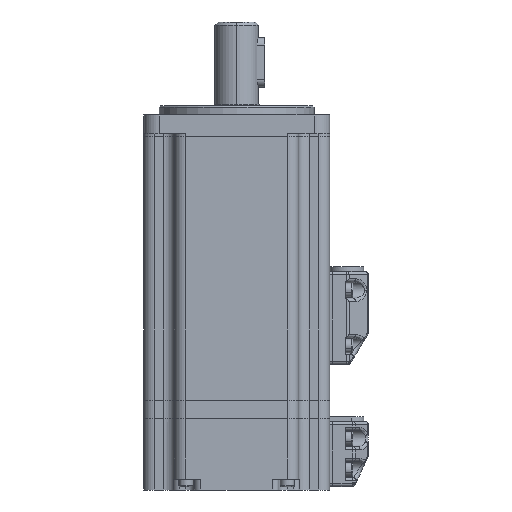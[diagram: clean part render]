
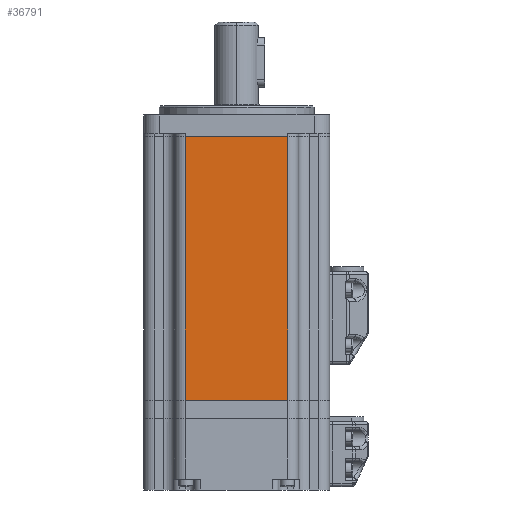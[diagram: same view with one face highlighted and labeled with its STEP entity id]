
A CAD part, front view. The second image highlights one B-rep face of the part: STEP entity #36791.
In plain terms, the highlighted planar face has unit normal (0, -1, 0).
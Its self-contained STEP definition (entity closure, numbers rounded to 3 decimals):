
#3152 = VECTOR ( 'NONE', #44145, 1000. ) ;
#3256 = DIRECTION ( 'NONE',  ( 0., 0., 1. ) ) ;
#3987 = DIRECTION ( 'NONE',  ( -1., 0., 0. ) ) ;
#5613 = VECTOR ( 'NONE', #3987, 1000. ) ;
#6157 = DIRECTION ( 'NONE',  ( 0., 0., 1. ) ) ;
#6840 = PLANE ( 'NONE',  #19960 ) ;
#7483 = CARTESIAN_POINT ( 'NONE',  ( 16.5, -30., 0. ) ) ;
#8644 = FACE_OUTER_BOUND ( 'NONE', #34749, .T. ) ;
#9043 = LINE ( 'NONE', #25527, #27622 ) ;
#9438 = EDGE_CURVE ( 'NONE', #11374, #41414, #12712, .T. ) ;
#11374 = VERTEX_POINT ( 'NONE', #24583 ) ;
#12712 = LINE ( 'NONE', #28342, #21406 ) ;
#13207 = VERTEX_POINT ( 'NONE', #39440 ) ;
#15271 = CARTESIAN_POINT ( 'NONE',  ( -16.5, -30., 0. ) ) ;
#19519 = EDGE_CURVE ( 'NONE', #11374, #13207, #9043, .T. ) ;
#19960 = AXIS2_PLACEMENT_3D ( 'NONE', #40224, #25467, #3256 ) ;
#21406 = VECTOR ( 'NONE', #6157, 1000. ) ;
#21805 = DIRECTION ( 'NONE',  ( -1., 0., 0. ) ) ;
#22866 = LINE ( 'NONE', #40437, #3152 ) ;
#24257 = VERTEX_POINT ( 'NONE', #15271 ) ;
#24583 = CARTESIAN_POINT ( 'NONE',  ( 16.5, -30., -85. ) ) ;
#25402 = ORIENTED_EDGE ( 'NONE', *, *, #44685, .T. ) ;
#25467 = DIRECTION ( 'NONE',  ( 0., 1., 0. ) ) ;
#25527 = CARTESIAN_POINT ( 'NONE',  ( -20., -30., -85. ) ) ;
#26629 = ORIENTED_EDGE ( 'NONE', *, *, #19519, .F. ) ;
#27622 = VECTOR ( 'NONE', #21805, 1000. ) ;
#28342 = CARTESIAN_POINT ( 'NONE',  ( 16.5, -30., -85. ) ) ;
#29914 = CARTESIAN_POINT ( 'NONE',  ( -20., -30., 0. ) ) ;
#30168 = ORIENTED_EDGE ( 'NONE', *, *, #9438, .T. ) ;
#34749 = EDGE_LOOP ( 'NONE', ( #46859, #25402, #26629, #30168 ) ) ;
#36371 = LINE ( 'NONE', #29914, #5613 ) ;
#36791 = ADVANCED_FACE ( 'NONE', ( #8644 ), #6840, .F. ) ;
#39440 = CARTESIAN_POINT ( 'NONE',  ( -16.5, -30., -85. ) ) ;
#40224 = CARTESIAN_POINT ( 'NONE',  ( -20., -30., -85. ) ) ;
#40437 = CARTESIAN_POINT ( 'NONE',  ( -16.5, -30., -85. ) ) ;
#41414 = VERTEX_POINT ( 'NONE', #7483 ) ;
#42459 = EDGE_CURVE ( 'NONE', #41414, #24257, #36371, .T. ) ;
#44145 = DIRECTION ( 'NONE',  ( 0., 0., -1. ) ) ;
#44685 = EDGE_CURVE ( 'NONE', #24257, #13207, #22866, .T. ) ;
#46859 = ORIENTED_EDGE ( 'NONE', *, *, #42459, .T. ) ;
